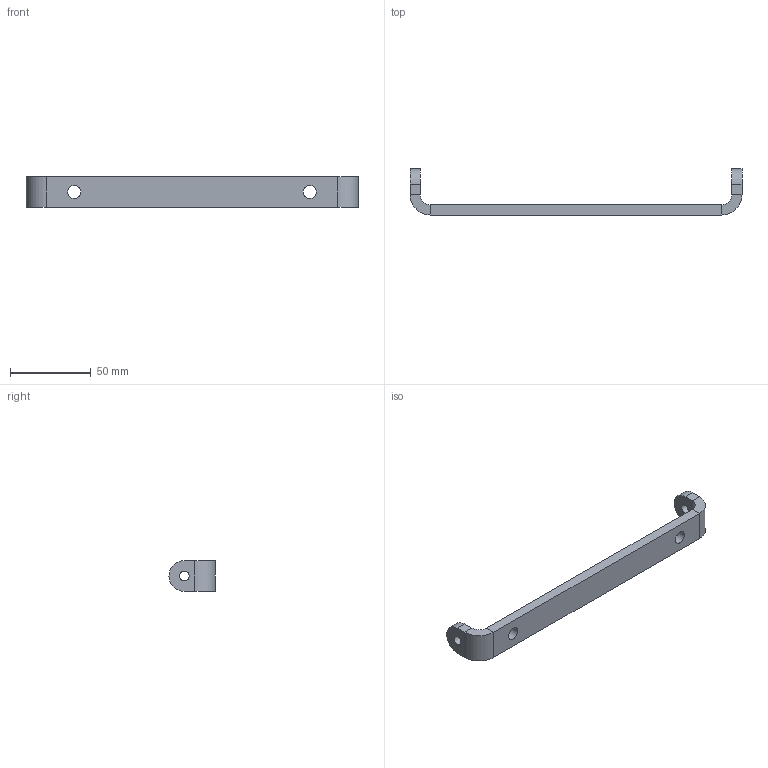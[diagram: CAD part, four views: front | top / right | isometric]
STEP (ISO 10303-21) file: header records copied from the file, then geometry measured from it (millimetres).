
FILE_DESCRIPTION(/* description */ (''),/* implementation_level */ '2;1');
FILE_NAME(/* name */ 'CSA Rack LowerMount.step',/* time_stamp */ '2024-07-04T21:50:54-07:00',/* author */ (''),/* organization */ (''),/* preprocessor_version */ 'ST-DEVELOPER v20',/* originating_system */ 'Autodesk Translation Framework v12.20.1.177',/* authorisation */ '');
FILE_SCHEMA (('AUTOMOTIVE_DESIGN { 1 0 10303 214 3 1 1 }'));
Length unit declared in the file: inch
Products named in the file (1): LowerMount
Bounding box: 205.69 x 28.57 x 19.05 mm (x, y, z)
Volume: 27777.7 mm3; surface area: 12518.5 mm2
Topology: 1 solids, 1 shells, 26 faces, 56 edges, 32 vertices
Faces by surface type: plane 16, cylinder 10
Full cylindrical faces by diameter (mm): 6 x2, 8 x2
Entity records: 743 total; most frequent: DIRECTION 130, CARTESIAN_POINT 115, ORIENTED_EDGE 112, EDGE_CURVE 56, AXIS2_PLACEMENT_3D 47, LINE 36, VECTOR 36, EDGE_LOOP 34
